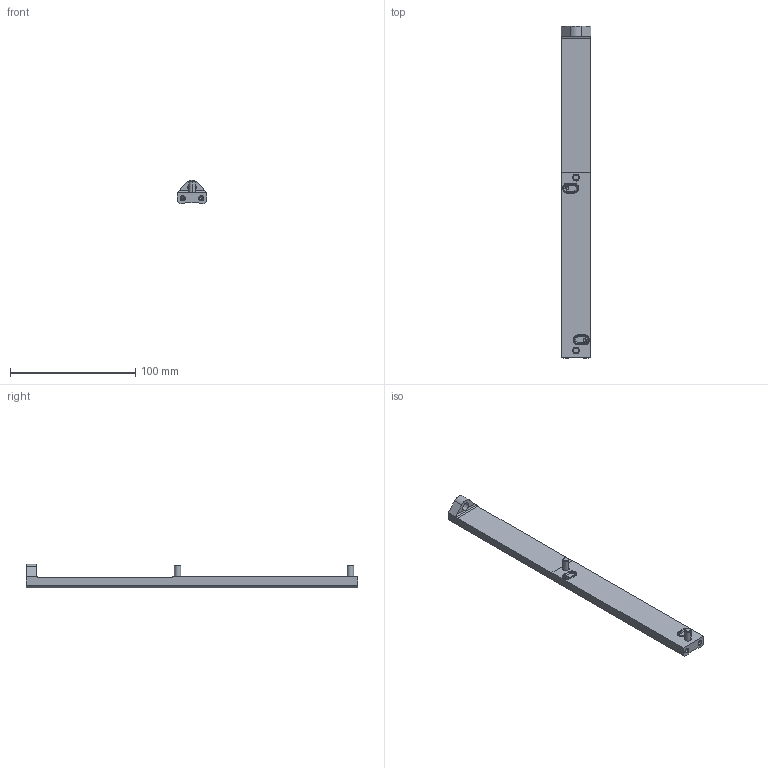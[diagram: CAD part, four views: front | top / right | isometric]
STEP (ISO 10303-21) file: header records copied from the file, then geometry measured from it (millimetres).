
FILE_DESCRIPTION((''),'2;1');
FILE_NAME('V:\CAD\Inventor-Stp\Linearelemente\Schienenführungen\LES 16 neue Nummern\stp\4000003.stp','2006-03-13T08:00:03',('is'),(''),'Autodesk Inventor 8','Autodesk Inventor 8','');
FILE_SCHEMA(('AUTOMOTIVE_DESIGN { 1 0 10303 214 1 1 1 1 }'));
Length unit declared in the file: millimetre
Products named in the file (1): 4000003
Bounding box: 23.3 x 265 x 19 mm (x, y, z)
Volume: 44543.8 mm3; surface area: 25496.3 mm2
Topology: 1 solids, 1 shells, 208 faces, 515 edges, 308 vertices
Faces by surface type: plane 65, bspline 48, cylinder 39, torus 36, cone 20
Entity records: 6921 total; most frequent: CARTESIAN_POINT 2111, DIRECTION 1023, ORIENTED_EDGE 1006, EDGE_CURVE 503, AXIS2_PLACEMENT_3D 400, VERTEX_POINT 308, EDGE_LOOP 237, CIRCLE 235
